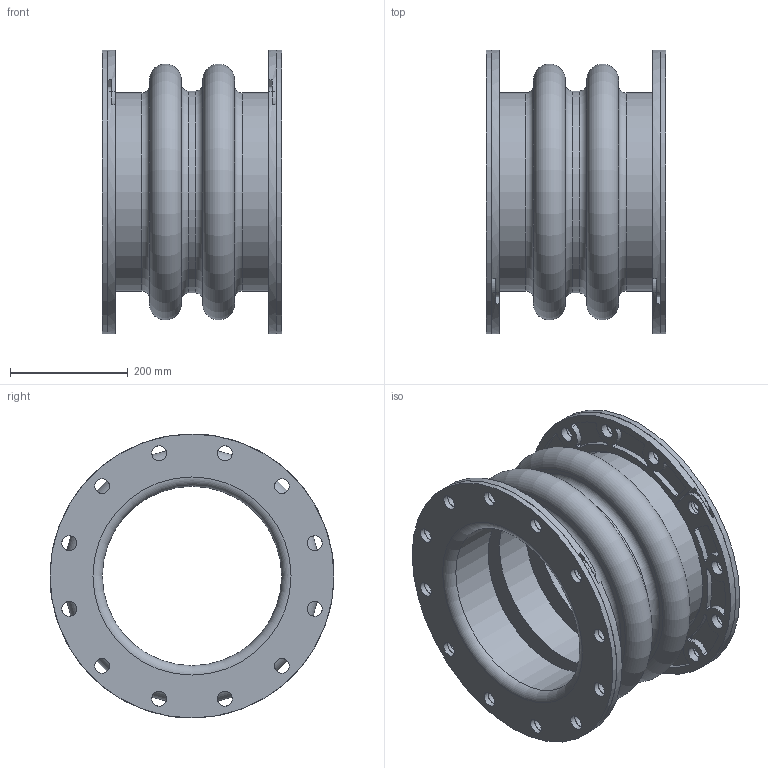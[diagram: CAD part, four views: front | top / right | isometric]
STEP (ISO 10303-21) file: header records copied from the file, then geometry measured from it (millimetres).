
FILE_DESCRIPTION(/* description */ (''),/* implementation_level */ '2;1');
FILE_NAME(/* name */ 'C:\001_Work\Designs\Mercer2014\MQInventor2014\RajR\500 Style\502\STP\502 12IDx12FF.stp',/* time_stamp */ '2016-03-16T14:54:06-04:00',/* author */ ('mquog'),/* organization */ (''),/* preprocessor_version */ 'ST-DEVELOPER v15.2',/* originating_system */ 'Autodesk Inventor 2014',/* authorisation */ '');
FILE_SCHEMA (('AUTOMOTIVE_DESIGN { 1 0 10303 214 3 1 1 }'));
Length unit declared in the file: centimetre
Products named in the file (1): 502 12IDx12FF
Bounding box: 304.8 x 482.61 x 482.61 mm (x, y, z)
Volume: 11014105.9 mm3; surface area: 1872792.1 mm2
Topology: 3 solids, 3 shells, 436 faces, 1188 edges, 780 vertices
Faces by surface type: cylinder 308, plane 108, torus 12, cone 8
Full cylindrical faces by diameter (mm): 25.4 x52, 304.8 x3, 336.55 x2, 342.9 x1, 482.6 x2
Entity records: 14320 total; most frequent: DIRECTION 2634, CARTESIAN_POINT 2317, ORIENTED_EDGE 2208, EDGE_CURVE 1104, AXIS2_PLACEMENT_3D 1093, VERTEX_POINT 776, CIRCLE 656, EDGE_LOOP 640
